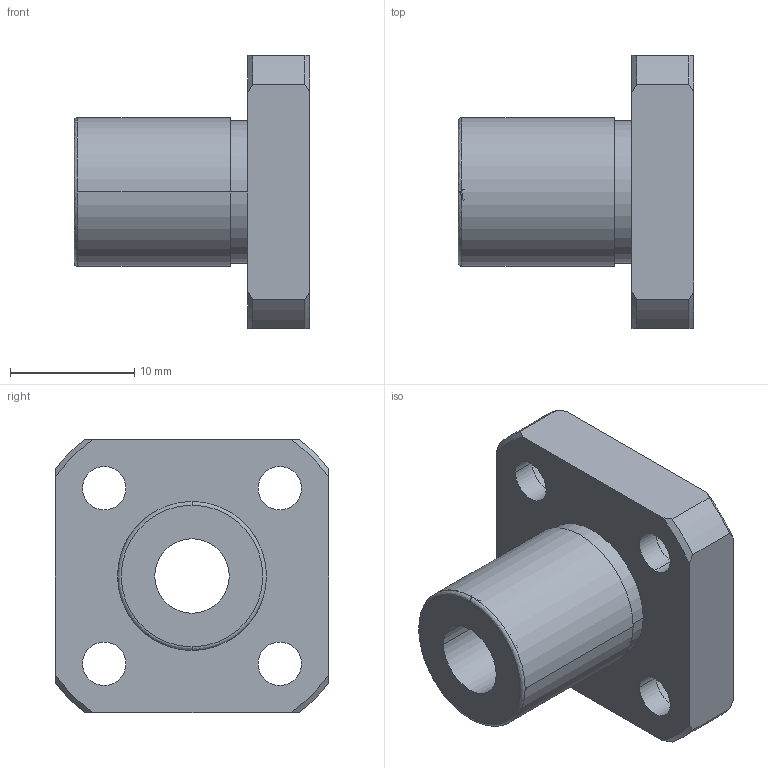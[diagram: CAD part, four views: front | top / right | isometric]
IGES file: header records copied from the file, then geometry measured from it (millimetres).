
Start section: 3D InterOp IGES (Version 21 0 1), Spatial Corp. Copyright (c) 1999-2007.
Global section: file name: NF-6VUU.igs; native system: Spatial Corp.; preprocessor: 3D InterOp GENERIC/IGES 3.0; author: Noname; organization: Noname; date: 20220308.154519; units: millimetre
Bounding box: 19 x 22 x 22 mm (x, y, z)
Surface area: 2535.1 mm2 (no closed solid volume)
Topology: 0 solids, 0 shells, 48 faces, 246 edges, 244 vertices
Faces by surface type: revolution 36, extrusion 12
